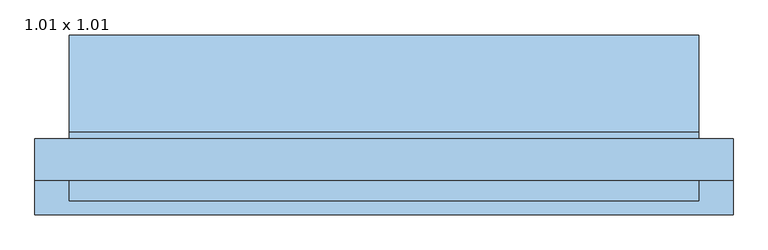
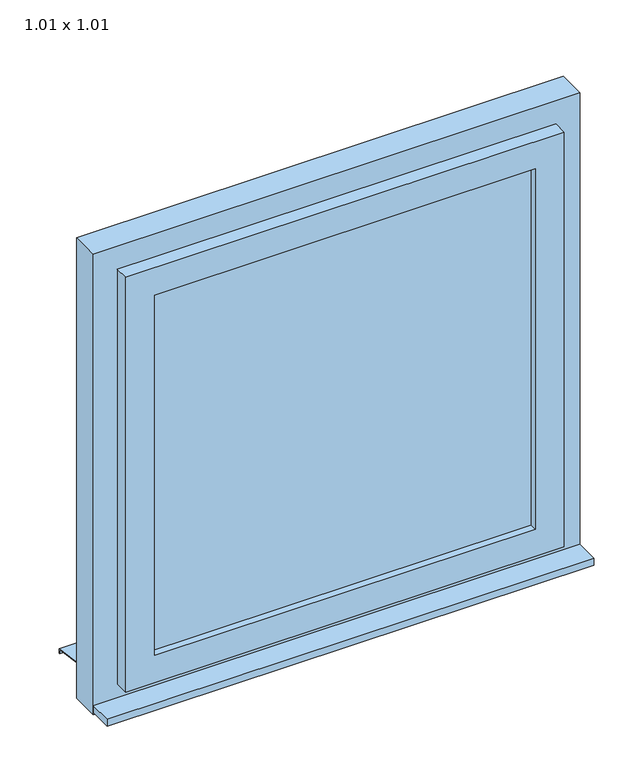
"""IFC4 building model written with IfcOpenShell, lengths in millimetres: window geometry, Fenster 1-flg - mit Anschlag : 1.01 x 1.01."""

import ifcopenshell
import ifcopenshell.guid

model = None  # the IFC model being written
_history = None  # IfcOwnerHistory: only IFC2X3 demands one
_inside = {}  # id of a spatial element -> (the spatial element, [elements in it])
_under = {}  # id of a project, library or spatial element -> (it, [spatial elements below it])
_declared = {}  # id of a project -> (the project, [libraries it declares])
_typed = {}  # id of a type object -> (the type object, [elements of that type])
_made_of = {}  # id of a material, layer set ... -> (it, [elements and type objects made of it])


def new_model(schema):
    """Start an empty IFC model of exactly this schema.

    Asked for "IFC4X3", IfcOpenShell would pick the latest addendum, in which some entities
    have other attributes; the version numbers below select the first issue.
    IFC2X3 requires an IfcOwnerHistory on every rooted entity: one is made here for all.
    """
    global model, _history
    if schema == "IFC4X3":
        model = ifcopenshell.file(schema_version=(4, 3, 0, 0))
    else:
        model = ifcopenshell.file(schema=schema)
    _inside.clear()
    _under.clear()
    _declared.clear()
    _typed.clear()
    _made_of.clear()
    _history = None
    if model.schema == "IFC2X3":
        org = make("IfcOrganization", Name="unknown")
        user = make(
            "IfcPersonAndOrganization",
            ThePerson=make("IfcPerson", FamilyName="unknown"),
            TheOrganization=org,
        )
        app = make(
            "IfcApplication",
            ApplicationDeveloper=org,
            Version="unknown",
            ApplicationFullName="unknown",
            ApplicationIdentifier="unknown",
        )
        _history = make(
            "IfcOwnerHistory",
            OwningUser=user,
            OwningApplication=app,
            ChangeAction="ADDED",
            CreationDate=0,
        )
    return model


def make(cls, **values):
    """One entity of the class cls with the attributes given. An attribute that is None is left unset."""
    return model.create_entity(
        cls, **{name: value for name, value in values.items() if value is not None}
    )


def rooted(cls, **values):
    """An entity with a GlobalId (a new one), such as an element, a storey or a relation."""
    return make(cls, GlobalId=ifcopenshell.guid.new(), OwnerHistory=_history, **values)


def si_unit(unit_type, name, prefix=None):
    """IfcSIUnit, for example si_unit("LENGTHUNIT", "METRE", prefix="MILLI")."""
    return make("IfcSIUnit", UnitType=unit_type, Prefix=prefix, Name=name)


def assignment(units):
    """IfcUnitAssignment: the units of a project."""
    return None if units is None else make("IfcUnitAssignment", Units=units)


def point(xyz):
    """IfcCartesianPoint."""
    return None if xyz is None else make("IfcCartesianPoint", Coordinates=xyz)


def direction(xyz):
    """IfcDirection."""
    return None if xyz is None else make("IfcDirection", DirectionRatios=xyz)


def frame(location, z_axis=None, x_axis=None):
    """IfcAxis2Placement3D, a coordinate frame: its origin and axes. An axis left out is left unset."""
    return make(
        "IfcAxis2Placement3D",
        Location=point(location),
        Axis=direction(z_axis),
        RefDirection=direction(x_axis),
    )


def origin():
    """The frame at (0, 0, 0) with its axes left unset."""
    return frame((0.0, 0.0, 0.0))


def place(relative_to, where):
    """IfcLocalPlacement: puts the frame where relative to a parent placement (None: the world)."""
    return make(
        "IfcLocalPlacement", PlacementRelTo=relative_to, RelativePlacement=where
    )


def context(
    kind, dimensions, precision=None, world=None, true_north=None, identifier=None
):
    """IfcGeometricRepresentationContext, for example the 3D "Model" context."""
    return make(
        "IfcGeometricRepresentationContext",
        ContextIdentifier=identifier,
        ContextType=kind,
        CoordinateSpaceDimension=dimensions,
        Precision=precision,
        WorldCoordinateSystem=world,
        TrueNorth=true_north,
    )


def project(units=None, contexts=None):
    """IfcProject with its units and contexts."""
    return rooted(
        "IfcProject",
        Name="project",
        RepresentationContexts=contexts,
        UnitsInContext=assignment(units),
    )


def spatial(cls, under=None, at=None, **own):
    """A site, building, storey or space (cls), placed at a placement, below another one or the project."""
    s = rooted(cls, ObjectPlacement=at, **own)
    if under is not None:
        _under.setdefault(under.id(), (under, []))[1].append(s)
    return s


def polyline(points):
    """IfcPolyline through the points."""
    return make("IfcPolyline", Points=[point(p) for p in points])


def outline(outer, holes=None, kind="AREA"):
    """IfcArbitraryClosedProfileDef: a profile drawn as a closed curve; with holes, ...WithVoids."""
    if holes is None:
        return make("IfcArbitraryClosedProfileDef", ProfileType=kind, OuterCurve=outer)
    return make(
        "IfcArbitraryProfileDefWithVoids",
        ProfileType=kind,
        OuterCurve=outer,
        InnerCurves=holes,
    )


def extrude(swept, where, along, depth):
    """IfcExtrudedAreaSolid: the profile swept, set in the frame where, extruded along a direction by depth."""
    return make(
        "IfcExtrudedAreaSolid",
        SweptArea=swept,
        Position=where,
        ExtrudedDirection=direction(along),
        Depth=depth,
    )


def faces_of(points, faces, orient=None, outer=None):
    """IfcFace entities. A face is a list of loops; a loop is a list of indices into points, from 0.

    orient and outer hold one flag for each loop. By default every Orientation is true, the
    first loop of a face is its IfcFaceOuterBound and the others are IfcFaceBound.
    """
    made = []
    for i, loops in enumerate(faces):
        bounds = []
        for j, loop in enumerate(loops):
            is_outer = j == 0 if outer is None else outer[i][j]
            bounds.append(
                make(
                    "IfcFaceOuterBound" if is_outer else "IfcFaceBound",
                    Bound=make("IfcPolyLoop", Polygon=[points[k] for k in loop]),
                    Orientation=True if orient is None else orient[i][j],
                )
            )
        made.append(make("IfcFace", Bounds=bounds))
    return made


def faceted_brep(points, faces, orient=None, outer=None, voids=None):
    """IfcFacetedBrep: a solid bounded by flat faces; with voids (closed shells), ...WithVoids."""
    shared = [point(p) for p in points]
    hull = make("IfcClosedShell", CfsFaces=faces_of(shared, faces, orient, outer))
    if voids is None:
        return make("IfcFacetedBrep", Outer=hull)
    return make(
        "IfcFacetedBrepWithVoids",
        Outer=hull,
        Voids=[
            make(cls, CfsFaces=faces_of(shared, fs, o, b)) for cls, fs, o, b in voids
        ],
    )


def shape(context_of_items, identifier, shape_type, items):
    """IfcShapeRepresentation: the items that make up one representation, for example the "Body"."""
    return make(
        "IfcShapeRepresentation",
        ContextOfItems=context_of_items,
        RepresentationIdentifier=identifier,
        RepresentationType=shape_type,
        Items=items,
    )


def source(mapping_origin, context_of_items, identifier, shape_type, items):
    """IfcRepresentationMap: a shape defined once, which mapped items show again and again."""
    return make(
        "IfcRepresentationMap",
        MappingOrigin=mapping_origin,
        MappedRepresentation=shape(context_of_items, identifier, shape_type, items),
    )


def transform(
    local_origin,
    x_axis=None,
    y_axis=None,
    z_axis=None,
    scale=None,
    scale2=None,
    scale3=None,
    uniform=True,
):
    """IfcCartesianTransformationOperator3D, or its non-uniform kind. x_axis, y_axis, z_axis: its Axis1, 2, 3."""
    if uniform:
        return make(
            "IfcCartesianTransformationOperator3D",
            Axis1=direction(x_axis),
            Axis2=direction(y_axis),
            LocalOrigin=point(local_origin),
            Scale=scale,
            Axis3=direction(z_axis),
        )
    return make(
        "IfcCartesianTransformationOperator3DnonUniform",
        Axis1=direction(x_axis),
        Axis2=direction(y_axis),
        LocalOrigin=point(local_origin),
        Scale=scale,
        Axis3=direction(z_axis),
        Scale2=scale2,
        Scale3=scale3,
    )


def mapped(mapping_source, mapping_target):
    """IfcMappedItem: shows the shape of a source again, moved by a transform."""
    return make(
        "IfcMappedItem", MappingSource=mapping_source, MappingTarget=mapping_target
    )


def made_of(thing, what):
    """Note that an element or type object is made of a material, layer set ...; save() writes the relation."""
    if what is not None:
        _made_of.setdefault(what.id(), (what, []))[1].append(thing)
    return thing


def element(
    cls,
    number,
    at=None,
    inside=None,
    cuts=None,
    type_object=None,
    material=None,
    context=None,
    identifier="Body",
    shape_type=None,
    held_by="IfcProductDefinitionShape",
    body=None,
    shapes=None,
    **own,
):
    """One element of the class cls, such as IfcWall. Its Tag is "e" and its number.

    at: its placement. inside: the storey or other place that contains it. cuts: it is an
    opening in that element (IfcRelVoidsElement). A single representation is given by context,
    identifier, shape_type and body (its items); several are given by shapes. held_by: the class
    of the entity that holds the representations. save() writes the other relations.
    """
    e = rooted(cls, Tag="e%d" % number, ObjectPlacement=at, **own)
    if body is not None:
        shapes = [shape(context, identifier, shape_type, body)]
    if shapes is not None:
        e.Representation = make(held_by, Representations=shapes)
    if inside is not None:
        _inside.setdefault(inside.id(), (inside, []))[1].append(e)
    if cuts is not None:
        rooted(
            "IfcRelVoidsElement", RelatingBuildingElement=cuts, RelatedOpeningElement=e
        )
    if type_object is not None:
        _typed.setdefault(type_object.id(), (type_object, []))[1].append(e)
    return made_of(e, material)


def aggregate(whole, parts):
    """IfcRelAggregates: a whole, such as a stair, and the parts it consists of."""
    return rooted("IfcRelAggregates", RelatingObject=whole, RelatedObjects=parts)


def save(model, path):
    """Write the relations noted so far, then the file.

    IfcRelAggregates (storeys below a building ...), IfcRelContainedInSpatialStructure (elements
    in a storey), IfcRelDefinesByType, IfcRelAssociatesMaterial and IfcRelDeclares: one each for
    every whole, place, type object, material and project.
    """
    for whole, parts in _under.values():
        aggregate(whole, parts)
    for where, things in _inside.values():
        rooted(
            "IfcRelContainedInSpatialStructure",
            RelatedElements=things,
            RelatingStructure=where,
        )
    for kind, things in _typed.values():
        rooted("IfcRelDefinesByType", RelatedObjects=things, RelatingType=kind)
    for what, things in _made_of.values():
        rooted("IfcRelAssociatesMaterial", RelatedObjects=things, RelatingMaterial=what)
    for by, libraries in _declared.values():
        rooted("IfcRelDeclares", RelatingContext=by, RelatedDefinitions=libraries)
    model.write(path)


def window_1_01_x_1_01_4e34e6c7(model_context):
    return source(origin(), model_context, "Body", "SolidModel", [
        extrude(outline(polyline([(-525.0, -130.0), (-525.0, -80.0), (485.0, -80.0), (485.0, -130.0), (-525.0, -130.0)])), frame((0.0, 0.0, 1005.0), z_axis=(0.0, 0.0, 1.0), x_axis=(1.0, 0.0, 0.0)), (0.0, 0.0, 1.0), 15.0),
        extrude(outline(polyline([(375.0, -95.0), (-415.0, -95.0), (-415.0, -65.0), (375.0, -65.0), (375.0, -95.0)])), frame((0.0, 0.0, 1110.0), z_axis=(0.0, 0.0, 1.0), x_axis=(1.0, 0.0, 0.0)), (0.0, 0.0, 1.0), 790.0),
        extrude(outline(polyline([(-9.9778457, 1020.0), (130.0, 1000.0), (130.0, 990.0), (128.0, 990.0), (128.0, 998.3604634), (-10.1759277, 1018.0), (-20.0, 1018.0), (-20.0, 1020.0), (-9.9778457, 1020.0)])), frame((-475.0, 0.0, 0.0), z_axis=(1.0, 0.0, 0.0), x_axis=(0.0, 1.0, 0.0)), (0.0, 0.0, 1.0), 910.0),
        extrude(outline(polyline([(2010.0, 485.0), (2010.0, -525.0), (1000.0, -525.0), (1000.0, 485.0), (2010.0, 485.0)]), holes=[polyline([(1930.0, 405.0), (1080.0, 405.0), (1080.0, -445.0), (1930.0, -445.0), (1930.0, 405.0)])]), frame((0.0, -80.0, 0.0), z_axis=(0.0, 1.0, 0.0), x_axis=(0.0, 0.0, 1.0)), (0.0, 0.0, 1.0), 60.0),
        faceted_brep([(435.0, -80.0, 1960.0), (435.0, -110.0, 1960.0), (435.0, -110.0, 1050.0), (435.0, -80.0, 1050.0), (-475.0, -110.0, 1960.0), (-475.0, -110.0, 1050.0), (375.0, -110.0, 1110.0), (-415.0, -110.0, 1110.0), (-415.0, -110.0, 1900.0), (375.0, -110.0, 1900.0), (-475.0, -80.0, 1050.0), (-475.0, -80.0, 1960.0), (405.0, -80.0, 1930.0), (-445.0, -80.0, 1930.0), (-445.0, -80.0, 1080.0), (405.0, -80.0, 1080.0), (405.0, -50.0, 1930.0), (405.0, -50.0, 1080.0), (-445.0, -50.0, 1080.0), (-445.0, -50.0, 1930.0), (375.0, -50.0, 1900.0), (-415.0, -50.0, 1900.0), (-415.0, -50.0, 1110.0), (375.0, -50.0, 1110.0)], [[[0, 1, 2, 3]], [[1, 4, 5, 2], [6, 7, 8, 9]], [[3, 2, 5, 10]], [[3, 10, 11, 0], [12, 13, 14, 15]], [[16, 12, 15, 17]], [[17, 15, 14, 18]], [[17, 18, 19, 16], [20, 21, 22, 23]], [[9, 20, 23, 6]], [[6, 23, 22, 7]], [[10, 5, 4, 11]], [[18, 14, 13, 19]], [[7, 22, 21, 8]], [[11, 4, 1, 0]], [[19, 13, 12, 16]], [[8, 21, 20, 9]]]),
    ])


if __name__ == "__main__":
    model = new_model("IFC4")
    model_context = context("Model", 3, world=origin())
    ifc_project = project(units=[si_unit("LENGTHUNIT", "METRE", prefix="MILLI")], contexts=[model_context])
    site = spatial("IfcSite", under=ifc_project)
    building = spatial("IfcBuilding", under=site)
    placement = place(None, origin())
    window_1_01_x_1_01_shape = window_1_01_x_1_01_4e34e6c7(model_context)
    element("IfcWindow", 1, ObjectType="Fenster 1-flg - mit Anschlag : 1.01 x 1.01", at=placement, inside=building, context=model_context, shape_type="MappedRepresentation", body=[
        mapped(window_1_01_x_1_01_shape, transform((0.0, 0.0, 0.0), x_axis=(1.0, 0.0, 0.0), y_axis=(0.0, 1.0, 0.0), z_axis=(0.0, 0.0, 1.0))),
    ])
    save(model, "model.ifc")
